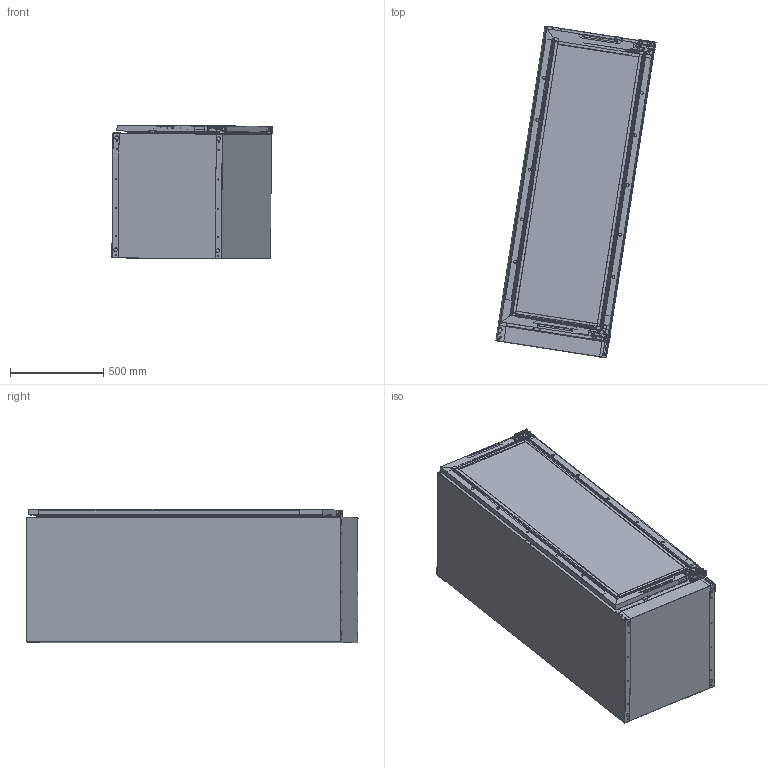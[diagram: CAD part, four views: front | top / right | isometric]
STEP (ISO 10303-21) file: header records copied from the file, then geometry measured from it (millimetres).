
FILE_DESCRIPTION((''),'2;1');
FILE_NAME('012200_ASM','2026-02-11T15:28:37',('Administrator'),(''),'CREO PARAMETRIC BY PTC INC, 2019080','CREO PARAMETRIC BY PTC INC, 2019080','');
FILE_SCHEMA(('CONFIG_CONTROL_DESIGN'));
Products named in the file (46): DZ01-1601-1_88_1200001; 1_1_2_300; DZ01-1599-2_180_1_0001; _1_2_3_40001_ASM; ASM0020_ASM; 180_122_320001; 106-R0003_122_0001; 00_122_0001; DZ01-1965__106_320001; 1060003_122_0001; 0001_106-01_1__DZ01-1964__106_3; M50001_106-01_1__DZ01-1964__106; 106-01_1__DZ01-1964__106_-88431_ASM; DZ01-1964__106_32-0001_ASM; 122__320001; 0001_122_0001; 46-180__320001; 122__32-000; 106-L0001_122_0001; 1060004_122_0001; 122320001; 46-180_32--0001; 0001_106-01_1__DZ01-1964__106_1; 106-01_1__DZ01-1964__106_-38667_ASM; DZ01-1964__106_32-0002_ASM; 46-180_32--0002; __0001_122_0001; __00_122_0001; 122_0001_ASM; 10600____0001; 106-200____0001; 106-0700_10620001_0001; 10620001_ASM____0001_ASM; 106-0500____0001; ___0001_ASM; _0001_ASM; 106-R00_0001; 106-0500_0001; 106-200_0001; 106-600_10610001_A0001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
Assembly tree (49 placements, depth 6):
  012200_ASM
    ASM0020_ASM
      _1_2_3_40001_ASM
        DZ01-1601-1_88_1200001
        1_1_2_300
        DZ01-1599-2_180_1_0001
    0122_100_ASM
      122_0001_ASM
        180_122_320001  x2
        106-R0003_122_0001
        00_122_0001
        DZ01-1965__106_320001  x2
        1060003_122_0001
        DZ01-1964__106_32-0001_ASM
          106-01_1__DZ01-1964__106_-88431_ASM
            0001_106-01_1__DZ01-1964__106_3
            M50001_106-01_1__DZ01-1964__106
        122__320001  x2
        0001_122_0001
        46-180__320001  x2
        122__32-000
        122__32-000
        106-L0001_122_0001
        1060004_122_0001
        122320001
        46-180_32--0001
        DZ01-1964__106_32-0002_ASM
          106-01_1__DZ01-1964__106_-38667_ASM
            0001_106-01_1__DZ01-1964__106_1
        46-180_32--0002
        __0001_122_0001
        __00_122_0001
      _0001_ASM
        ___0001_ASM
          10600____0001
          106-200____0001
          10620001_ASM____0001_ASM
            106-0700_10620001_0001
          106-0500____0001
      0007_ASM
        106-R00_0001
        106-0500_0001
        106-200_0001
        10610001_ASM_0001_ASM
          106-600_10610001_A0001
          106-07-R00_10610000001
Bounding box: 860.05 x 1781.82 x 718.46 mm (x, y, z)
Volume: 32613299 mm3; surface area: 12858920.1 mm2
Topology: 35 solids, 40 shells, 2793 faces, 7561 edges, 4799 vertices
Faces by surface type: plane 1621, cylinder 937, bspline 122, cone 76, torus 25, sphere 12
Entity records: 90542 total; most frequent: CARTESIAN_POINT 21572, ORIENTED_EDGE 14255, DIRECTION 14056, EDGE_CURVE 7197, VECTOR 4938, LINE 4938, VERTEX_POINT 4591, AXIS2_PLACEMENT_3D 4559
